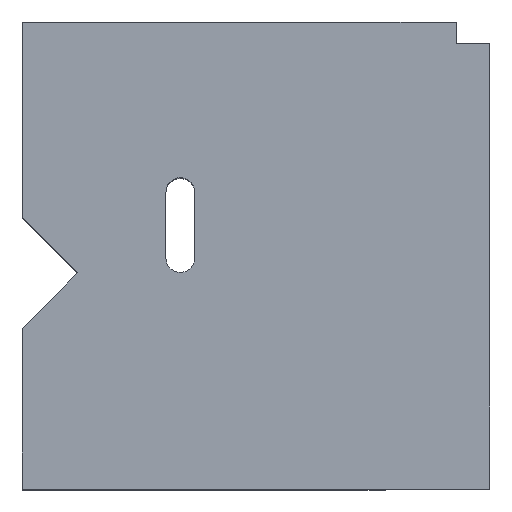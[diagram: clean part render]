
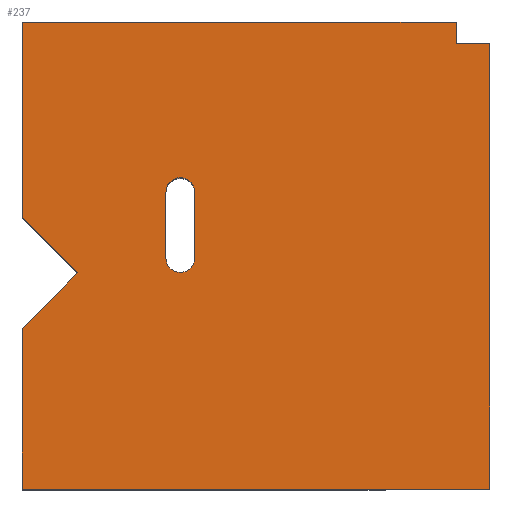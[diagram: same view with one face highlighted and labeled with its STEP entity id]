
A CAD part, top view. The second image highlights one B-rep face of the part: STEP entity #237.
In plain terms, the highlighted planar face has unit normal (0, 0, 1).
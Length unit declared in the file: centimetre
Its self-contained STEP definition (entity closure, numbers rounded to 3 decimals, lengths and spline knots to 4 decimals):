
#22 = EDGE_CURVE ( 'NONE', #766, #1575, #1487, .T. ) ;
#32 = DIRECTION ( 'NONE',  ( 0., -1., 0. ) ) ;
#33 = CARTESIAN_POINT ( 'NONE',  ( 368.5784, 494.5122, 1000. ) ) ;
#49 = DIRECTION ( 'NONE',  ( 0., 1., 0. ) ) ;
#51 = CARTESIAN_POINT ( 'NONE',  ( 0., 1000., 1000. ) ) ;
#87 = DIRECTION ( 'NONE',  ( -1., 0., 0. ) ) ;
#116 = LINE ( 'NONE', #1079, #1069 ) ;
#127 = VECTOR ( 'NONE', #1316, 100. ) ;
#157 = CARTESIAN_POINT ( 'NONE',  ( 928.2834, 1000., 1000. ) ) ;
#163 = EDGE_CURVE ( 'NONE', #1728, #901, #116, .T. ) ;
#165 = LINE ( 'NONE', #51, #470 ) ;
#178 = CARTESIAN_POINT ( 'NONE',  ( 368.5784, 636.039, 1000. ) ) ;
#237 = ADVANCED_FACE ( 'NONE', ( #623, #1460 ), #770, .T. ) ;
#243 = LINE ( 'NONE', #1040, #1435 ) ;
#247 = CARTESIAN_POINT ( 'NONE',  ( 0., 344.2262, 1000. ) ) ;
#250 = EDGE_CURVE ( 'NONE', #1538, #1729, #243, .T. ) ;
#265 = CARTESIAN_POINT ( 'NONE',  ( 307.1899, 494.5122, 1000. ) ) ;
#270 = AXIS2_PLACEMENT_3D ( 'NONE', #457, #1257, #719 ) ;
#271 = DIRECTION ( 'NONE',  ( 1., 0., 0. ) ) ;
#295 = EDGE_CURVE ( 'NONE', #901, #566, #781, .T. ) ;
#297 = CARTESIAN_POINT ( 'NONE',  ( 0., 1000., 1000. ) ) ;
#303 = VERTEX_POINT ( 'NONE', #906 ) ;
#308 = CARTESIAN_POINT ( 'NONE',  ( 368.5784, 636.039, 1000. ) ) ;
#315 = LINE ( 'NONE', #157, #322 ) ;
#322 = VECTOR ( 'NONE', #32, 100. ) ;
#336 = ORIENTED_EDGE ( 'NONE', *, *, #1025, .F. ) ;
#366 = DIRECTION ( 'NONE',  ( 1., 0., 0. ) ) ;
#383 = CIRCLE ( 'NONE', #270, 30.6942 ) ;
#387 = LINE ( 'NONE', #1597, #1604 ) ;
#415 = VERTEX_POINT ( 'NONE', #265 ) ;
#423 = DIRECTION ( 'NONE',  ( 0.707, -0.707, 0. ) ) ;
#424 = ORIENTED_EDGE ( 'NONE', *, *, #1259, .F. ) ;
#431 = LINE ( 'NONE', #1470, #696 ) ;
#440 = VERTEX_POINT ( 'NONE', #33 ) ;
#447 = VERTEX_POINT ( 'NONE', #308 ) ;
#457 = CARTESIAN_POINT ( 'NONE',  ( 337.8842, 494.5122, 1000. ) ) ;
#470 = VECTOR ( 'NONE', #1254, 100. ) ;
#486 = ORIENTED_EDGE ( 'NONE', *, *, #519, .T. ) ;
#498 = CARTESIAN_POINT ( 'NONE',  ( 0., 344.2262, 1000. ) ) ;
#518 = DIRECTION ( 'NONE',  ( 0., -1., 0. ) ) ;
#519 = EDGE_CURVE ( 'NONE', #1667, #766, #165, .T. ) ;
#539 = DIRECTION ( 'NONE',  ( 0., 0., 1. ) ) ;
#552 = VECTOR ( 'NONE', #271, 100. ) ;
#566 = VERTEX_POINT ( 'NONE', #1261 ) ;
#585 = CARTESIAN_POINT ( 'NONE',  ( 118.6989, 462.9251, 1000. ) ) ;
#598 = EDGE_CURVE ( 'NONE', #566, #1314, #431, .T. ) ;
#619 = ORIENTED_EDGE ( 'NONE', *, *, #163, .T. ) ;
#623 = FACE_OUTER_BOUND ( 'NONE', #1723, .T. ) ;
#628 = ORIENTED_EDGE ( 'NONE', *, *, #1513, .T. ) ;
#641 = LINE ( 'NONE', #761, #127 ) ;
#642 = VECTOR ( 'NONE', #1433, 100. ) ;
#643 = EDGE_CURVE ( 'NONE', #447, #303, #919, .T. ) ;
#652 = CARTESIAN_POINT ( 'NONE',  ( 0., 1000., 1000. ) ) ;
#660 = CARTESIAN_POINT ( 'NONE',  ( 0., 0., 1000. ) ) ;
#696 = VECTOR ( 'NONE', #423, 100. ) ;
#701 = CARTESIAN_POINT ( 'NONE',  ( 928.2834, 1000., 1000. ) ) ;
#705 = ORIENTED_EDGE ( 'NONE', *, *, #22, .T. ) ;
#719 = DIRECTION ( 'NONE',  ( -1., 0., 0. ) ) ;
#729 = LINE ( 'NONE', #178, #1720 ) ;
#761 = CARTESIAN_POINT ( 'NONE',  ( 307.1899, 494.5122, 1000. ) ) ;
#763 = DIRECTION ( 'NONE',  ( 0., 0., 1. ) ) ;
#766 = VERTEX_POINT ( 'NONE', #871 ) ;
#770 = PLANE ( 'NONE',  #1602 ) ;
#781 = LINE ( 'NONE', #652, #1010 ) ;
#847 = EDGE_CURVE ( 'NONE', #440, #447, #729, .T. ) ;
#871 = CARTESIAN_POINT ( 'NONE',  ( 0., 0., 1000. ) ) ;
#880 = ORIENTED_EDGE ( 'NONE', *, *, #598, .T. ) ;
#899 = EDGE_CURVE ( 'NONE', #415, #440, #383, .T. ) ;
#901 = VERTEX_POINT ( 'NONE', #297 ) ;
#906 = CARTESIAN_POINT ( 'NONE',  ( 307.1899, 636.039, 1000. ) ) ;
#919 = CIRCLE ( 'NONE', #952, 30.6942 ) ;
#927 = CARTESIAN_POINT ( 'NONE',  ( 928.2834, 954.6423, 1000. ) ) ;
#945 = DIRECTION ( 'NONE',  ( 0., 1., 0. ) ) ;
#952 = AXIS2_PLACEMENT_3D ( 'NONE', #1096, #539, #1250 ) ;
#953 = CARTESIAN_POINT ( 'NONE',  ( 0., 0., 1000. ) ) ;
#997 = ORIENTED_EDGE ( 'NONE', *, *, #1620, .T. ) ;
#1010 = VECTOR ( 'NONE', #518, 100. ) ;
#1025 = EDGE_CURVE ( 'NONE', #303, #415, #641, .T. ) ;
#1040 = CARTESIAN_POINT ( 'NONE',  ( 928.2834, 954.6423, 1000. ) ) ;
#1069 = VECTOR ( 'NONE', #87, 100. ) ;
#1079 = CARTESIAN_POINT ( 'NONE',  ( 0., 1000., 1000. ) ) ;
#1096 = CARTESIAN_POINT ( 'NONE',  ( 337.8842, 636.039, 1000. ) ) ;
#1099 = CARTESIAN_POINT ( 'NONE',  ( 1000., 954.6423, 1000. ) ) ;
#1250 = DIRECTION ( 'NONE',  ( -1., 0., 0. ) ) ;
#1254 = DIRECTION ( 'NONE',  ( 0., -1., 0. ) ) ;
#1257 = DIRECTION ( 'NONE',  ( 0., 0., 1. ) ) ;
#1259 = EDGE_CURVE ( 'NONE', #1728, #1538, #315, .T. ) ;
#1261 = CARTESIAN_POINT ( 'NONE',  ( 0., 581.624, 1000. ) ) ;
#1314 = VERTEX_POINT ( 'NONE', #585 ) ;
#1316 = DIRECTION ( 'NONE',  ( 0., -1., 0. ) ) ;
#1325 = ORIENTED_EDGE ( 'NONE', *, *, #250, .F. ) ;
#1328 = CARTESIAN_POINT ( 'NONE',  ( 1000., 0., 1000. ) ) ;
#1333 = DIRECTION ( 'NONE',  ( 1., 0., 0. ) ) ;
#1424 = ORIENTED_EDGE ( 'NONE', *, *, #643, .F. ) ;
#1433 = DIRECTION ( 'NONE',  ( -0.707, -0.707, 0. ) ) ;
#1435 = VECTOR ( 'NONE', #1333, 100. ) ;
#1445 = EDGE_LOOP ( 'NONE', ( #1733, #336, #1424, #1751 ) ) ;
#1460 = FACE_BOUND ( 'NONE', #1445, .T. ) ;
#1470 = CARTESIAN_POINT ( 'NONE',  ( 118.6989, 462.9251, 1000. ) ) ;
#1487 = LINE ( 'NONE', #953, #552 ) ;
#1513 = EDGE_CURVE ( 'NONE', #1575, #1729, #387, .T. ) ;
#1538 = VERTEX_POINT ( 'NONE', #927 ) ;
#1575 = VERTEX_POINT ( 'NONE', #1328 ) ;
#1597 = CARTESIAN_POINT ( 'NONE',  ( 1000., 1000., 1000. ) ) ;
#1602 = AXIS2_PLACEMENT_3D ( 'NONE', #660, #763, #366 ) ;
#1604 = VECTOR ( 'NONE', #945, 100. ) ;
#1620 = EDGE_CURVE ( 'NONE', #1314, #1667, #1739, .T. ) ;
#1667 = VERTEX_POINT ( 'NONE', #247 ) ;
#1677 = ORIENTED_EDGE ( 'NONE', *, *, #295, .T. ) ;
#1720 = VECTOR ( 'NONE', #49, 100. ) ;
#1723 = EDGE_LOOP ( 'NONE', ( #997, #486, #705, #628, #1325, #424, #619, #1677, #880 ) ) ;
#1728 = VERTEX_POINT ( 'NONE', #701 ) ;
#1729 = VERTEX_POINT ( 'NONE', #1099 ) ;
#1733 = ORIENTED_EDGE ( 'NONE', *, *, #899, .F. ) ;
#1739 = LINE ( 'NONE', #498, #642 ) ;
#1751 = ORIENTED_EDGE ( 'NONE', *, *, #847, .F. ) ;
